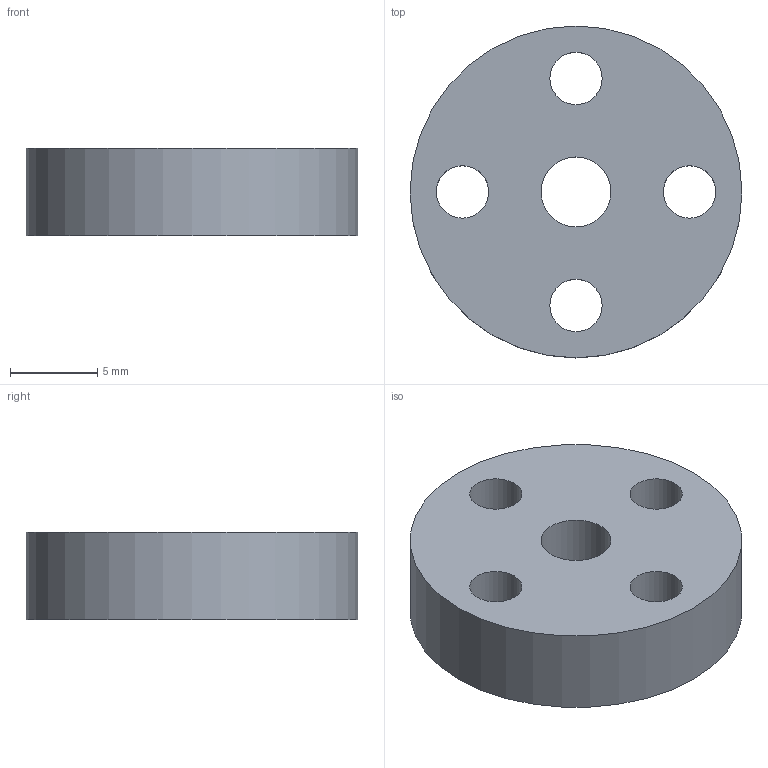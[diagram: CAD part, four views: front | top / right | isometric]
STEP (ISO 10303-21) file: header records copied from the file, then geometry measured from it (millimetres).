
FILE_DESCRIPTION(/* description */ (''),/* implementation_level */ '2;1');
FILE_NAME(/* name */ 'C:/Users/priba/Documents/Temp/mrm-hub4.step',/* time_stamp */ '2020-04-08T13:16:08+02:00',/* author */ (''),/* organization */ (''),/* preprocessor_version */ 'ST-DEVELOPER v18',/* originating_system */ 'Autodesk Translation Framework v8.12.0.6',/* authorisation */ '');
FILE_SCHEMA (('AUTOMOTIVE_DESIGN { 1 0 10303 214 3 1 1 }'));
Length unit declared in the file: millimetre
Products named in the file (1): WheelHub4mm
Bounding box: 19 x 19 x 5 mm (x, y, z)
Volume: 1213.4 mm3; surface area: 1035.2 mm2
Topology: 1 solids, 1 shells, 8 faces, 18 edges, 12 vertices
Faces by surface type: cylinder 6, plane 2
Full cylindrical faces by diameter (mm): 3 x4, 4 x1, 19 x1
Entity records: 287 total; most frequent: DIRECTION 48, CARTESIAN_POINT 39, ORIENTED_EDGE 36, AXIS2_PLACEMENT_3D 21, EDGE_LOOP 18, EDGE_CURVE 18, CIRCLE 12, VERTEX_POINT 12
